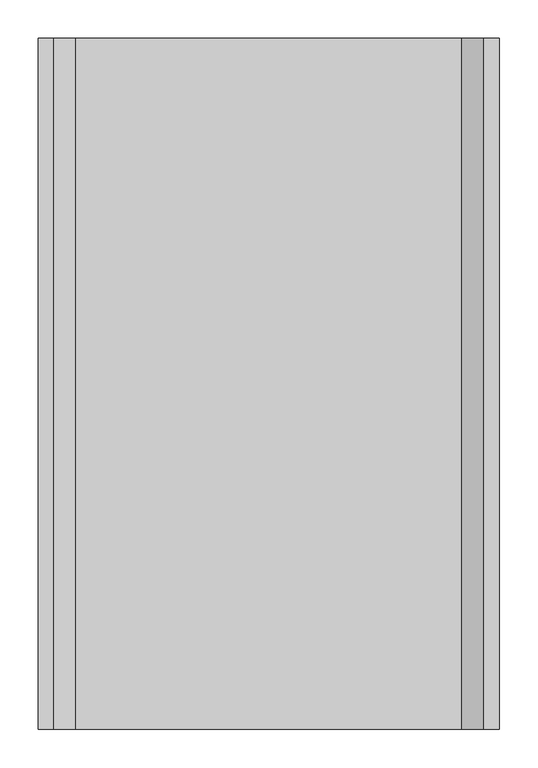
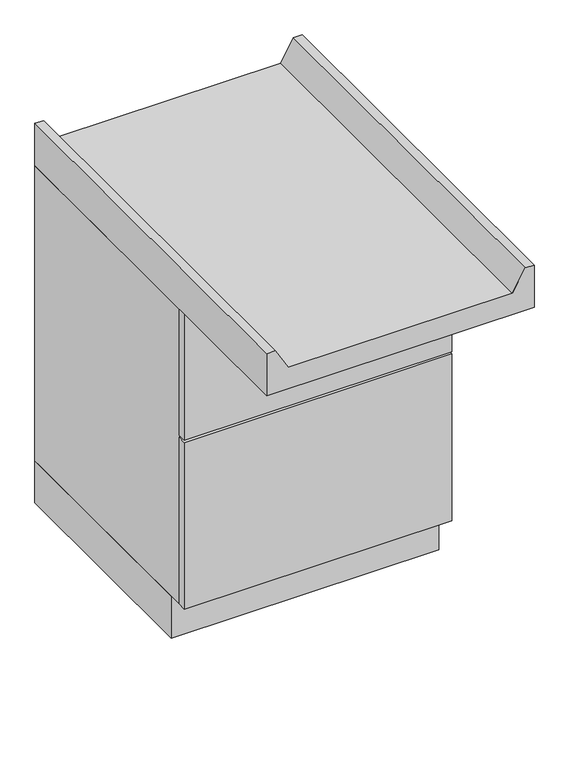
"""IFC4 building model written with IfcOpenShell, lengths in millimetres: furniture geometry, ARQ_MOB_BAÑO-03 : MUEBLE_BAÑO-03."""

from ifc_helpers import new_model, si_unit, frame, origin, origin_with_axes, place, context, project, spatial, polyline, outline, extrude, source, transform, mapped, element, save


def furniture_ace2ff6d(model_context):
    return source(origin(), model_context, "Body", "SweptSolid", [
        extrude(outline(polyline([(344.7003264, -560.0), (344.7003264, -580.0), (-255.2996736, -580.0), (-255.2996736, -560.0), (344.7003264, -560.0)])), frame((0.0, 0.0, 100.0), z_axis=(0.0, 0.0, 1.0), x_axis=(1.0, 0.0, 0.0)), (0.0, 0.0, 1.0), 395.0),
        extrude(outline(polyline([(800.0, -255.2996736), (800.0, 344.7003264), (900.0, 344.7003264), (900.0, 324.7003264), (850.0, 295.832813), (850.0, -206.4321601), (900.0, -235.2996736), (900.0, -255.2996736), (800.0, -255.2996736)])), frame((0.0, -900.0, 0.0), z_axis=(0.0, 1.0, 0.0), x_axis=(0.0, 0.0, 1.0)), (0.0, 0.0, 1.0), 900.0),
        extrude(outline(polyline([(344.7003264, -560.0), (344.7003264, -580.0), (-255.2996736, -580.0), (-255.2996736, -560.0), (344.7003264, -560.0)])), frame((0.0, 0.0, 500.0), z_axis=(0.0, 0.0, 1.0), x_axis=(1.0, 0.0, 0.0)), (0.0, 0.0, 1.0), 300.0),
        extrude(outline(polyline([(-235.2996736, -20.0), (324.7003264, -20.0), (324.7003264, -560.0), (-235.2996736, -560.0), (-235.2996736, -20.0)])), frame((0.0, 0.0, 100.0), z_axis=(0.0, 0.0, 1.0), x_axis=(1.0, 0.0, 0.0)), (0.0, 0.0, 1.0), 20.0),
        extrude(outline(polyline([(344.7003264, 0.0), (344.7003264, -560.0), (324.7003264, -560.0), (324.7003264, -20.0), (-235.2996736, -20.0), (-235.2996736, -560.0), (-255.2996736, -560.0), (-255.2996736, 0.0), (344.7003264, 0.0)])), frame((0.0, 0.0, 100.0), z_axis=(0.0, 0.0, 1.0), x_axis=(1.0, 0.0, 0.0)), (0.0, 0.0, 1.0), 700.0),
        extrude(outline(polyline([(344.7003264, 0.0), (344.7003264, -530.0), (-255.2996736, -530.0), (-255.2996736, 0.0), (344.7003264, 0.0)])), origin_with_axes(), (0.0, 0.0, 1.0), 100.0),
    ])


if __name__ == "__main__":
    model = new_model("IFC4")
    model_context = context("Model", 3, world=origin())
    ifc_project = project(units=[si_unit("LENGTHUNIT", "METRE", prefix="MILLI")], contexts=[model_context])
    site = spatial("IfcSite", under=ifc_project)
    building = spatial("IfcBuilding", under=site)
    placement = place(None, origin())
    furniture_shape = furniture_ace2ff6d(model_context)
    element("IfcFurniture", 1, ObjectType="ARQ_MOB_BAÑO-03 : MUEBLE_BAÑO-03", at=placement, inside=building, context=model_context, shape_type="MappedRepresentation", body=[
        mapped(furniture_shape, transform((0.0, 0.0, 0.0), x_axis=(1.0, 0.0, 0.0), y_axis=(0.0, 1.0, 0.0), z_axis=(0.0, 0.0, 1.0))),
    ])
    save(model, "model.ifc")
